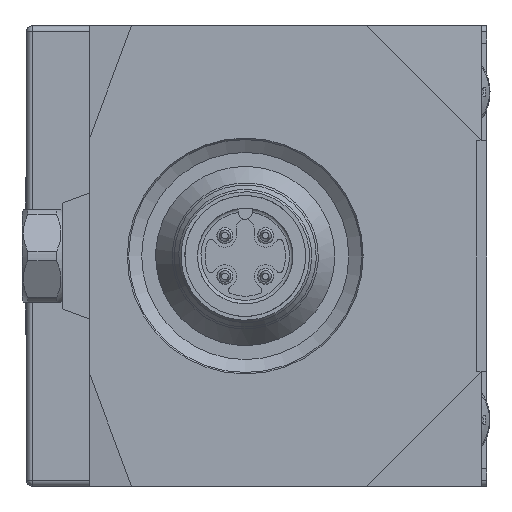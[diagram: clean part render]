
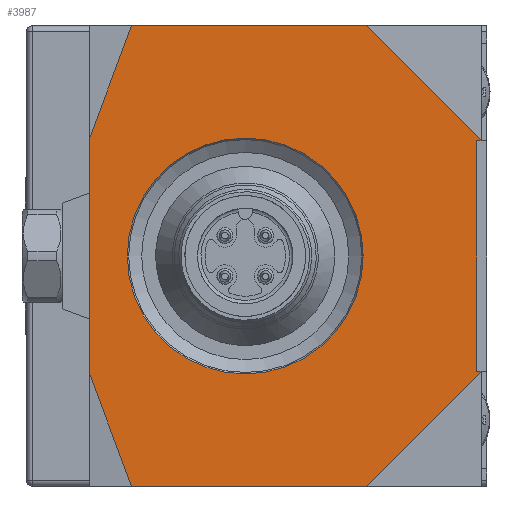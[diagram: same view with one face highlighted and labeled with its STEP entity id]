
A CAD part, left-side view. The second image highlights one B-rep face of the part: STEP entity #3987.
In plain terms, the highlighted planar face has unit normal (-1, 0, 0).
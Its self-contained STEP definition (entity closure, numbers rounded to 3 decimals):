
#21 = ORIENTED_EDGE ( 'NONE', *, *, #5214, .T. ) ;
#46 = DIRECTION ( 'NONE',  ( 0., 0., 1. ) ) ;
#157 = CARTESIAN_POINT ( 'NONE',  ( -29.109, -10.375, 13.5 ) ) ;
#191 = EDGE_CURVE ( 'NONE', #8118, #6717, #8009, .T. ) ;
#213 = DIRECTION ( 'NONE',  ( 0., -1., 0. ) ) ;
#329 = VERTEX_POINT ( 'NONE', #3212 ) ;
#429 = ORIENTED_EDGE ( 'NONE', *, *, #3828, .T. ) ;
#521 = DIRECTION ( 'NONE',  ( 0., -1., 0. ) ) ;
#530 = LINE ( 'NONE', #4149, #8645 ) ;
#579 = EDGE_CURVE ( 'NONE', #2131, #4451, #3209, .T. ) ;
#673 = DIRECTION ( 'NONE',  ( 0., 1., 0. ) ) ;
#682 = CARTESIAN_POINT ( 'NONE',  ( -29.109, -6.525, 4.25 ) ) ;
#717 = EDGE_LOOP ( 'NONE', ( #21 ) ) ;
#738 = EDGE_CURVE ( 'NONE', #4451, #9364, #1265, .T. ) ;
#905 = CIRCLE ( 'NONE', #3340, 10.25 ) ;
#1239 = VERTEX_POINT ( 'NONE', #3927 ) ;
#1265 = LINE ( 'NONE', #2523, #3419 ) ;
#1480 = FACE_BOUND ( 'NONE', #717, .T. ) ;
#1483 = EDGE_CURVE ( 'NONE', #9364, #6218, #5362, .T. ) ;
#1598 = VECTOR ( 'NONE', #7162, 1000. ) ;
#1633 = LINE ( 'NONE', #6745, #6667 ) ;
#2044 = DIRECTION ( 'NONE',  ( 0., 0.707, 0.707 ) ) ;
#2131 = VERTEX_POINT ( 'NONE', #7870 ) ;
#2152 = LINE ( 'NONE', #157, #8352 ) ;
#2464 = LINE ( 'NONE', #5366, #4245 ) ;
#2507 = CARTESIAN_POINT ( 'NONE',  ( -29.109, -10.775, 8.5 ) ) ;
#2523 = CARTESIAN_POINT ( 'NONE',  ( -29.109, 22.906, 29.684 ) ) ;
#2557 = DIRECTION ( 'NONE',  ( 0., -0.351, -0.936 ) ) ;
#2699 = EDGE_CURVE ( 'NONE', #6717, #4631, #8092, .T. ) ;
#2992 = EDGE_LOOP ( 'NONE', ( #3517, #7576, #5874, #429, #9377, #4682, #7799, #4013, #7657, #7876 ) ) ;
#3048 = DIRECTION ( 'NONE',  ( 0., 1., 0. ) ) ;
#3209 = LINE ( 'NONE', #6772, #4476 ) ;
#3212 = CARTESIAN_POINT ( 'NONE',  ( -29.109, -10.375, 28.5 ) ) ;
#3231 = DIRECTION ( 'NONE',  ( 0., 0., -1. ) ) ;
#3340 = AXIS2_PLACEMENT_3D ( 'NONE', #7333, #8939, #673 ) ;
#3419 = VECTOR ( 'NONE', #6969, 1000. ) ;
#3441 = CARTESIAN_POINT ( 'NONE',  ( -29.109, -0.775, -1.5 ) ) ;
#3477 = VERTEX_POINT ( 'NONE', #9376 ) ;
#3497 = CARTESIAN_POINT ( 'NONE',  ( -29.109, -10.375, 8.5 ) ) ;
#3517 = ORIENTED_EDGE ( 'NONE', *, *, #2699, .T. ) ;
#3828 = EDGE_CURVE ( 'NONE', #1239, #2131, #530, .T. ) ;
#3927 = CARTESIAN_POINT ( 'NONE',  ( -29.109, -10.775, 28.5 ) ) ;
#3987 = ADVANCED_FACE ( 'NONE', ( #1480, #4386 ), #4253, .F. ) ;
#4013 = ORIENTED_EDGE ( 'NONE', *, *, #6637, .T. ) ;
#4149 = CARTESIAN_POINT ( 'NONE',  ( -29.109, -6.525, 32.75 ) ) ;
#4235 = LINE ( 'NONE', #4890, #5624 ) ;
#4245 = VECTOR ( 'NONE', #2557, 1000. ) ;
#4253 = PLANE ( 'NONE',  #5746 ) ;
#4341 = EDGE_CURVE ( 'NONE', #8121, #8118, #1633, .T. ) ;
#4386 = FACE_OUTER_BOUND ( 'NONE', #2992, .T. ) ;
#4451 = VERTEX_POINT ( 'NONE', #4593 ) ;
#4476 = VECTOR ( 'NONE', #4522, 1000. ) ;
#4522 = DIRECTION ( 'NONE',  ( 0., 1., 0. ) ) ;
#4593 = CARTESIAN_POINT ( 'NONE',  ( -29.109, 19.6, 38.5 ) ) ;
#4631 = VERTEX_POINT ( 'NONE', #3497 ) ;
#4682 = ORIENTED_EDGE ( 'NONE', *, *, #738, .T. ) ;
#4723 = EDGE_CURVE ( 'NONE', #4631, #329, #2152, .T. ) ;
#4890 = CARTESIAN_POINT ( 'NONE',  ( -29.109, -2.075, 28.5 ) ) ;
#5214 = EDGE_CURVE ( 'NONE', #3477, #3477, #905, .T. ) ;
#5362 = LINE ( 'NONE', #6853, #6320 ) ;
#5366 = CARTESIAN_POINT ( 'NONE',  ( -29.109, 22.906, 7.316 ) ) ;
#5538 = CARTESIAN_POINT ( 'NONE',  ( -29.109, 23.225, 8.167 ) ) ;
#5624 = VECTOR ( 'NONE', #521, 1000. ) ;
#5746 = AXIS2_PLACEMENT_3D ( 'NONE', #7925, #9297, #9246 ) ;
#5874 = ORIENTED_EDGE ( 'NONE', *, *, #8482, .T. ) ;
#6218 = VERTEX_POINT ( 'NONE', #5538 ) ;
#6320 = VECTOR ( 'NONE', #3231, 1000. ) ;
#6627 = CARTESIAN_POINT ( 'NONE',  ( -29.109, 23.225, 28.833 ) ) ;
#6637 = EDGE_CURVE ( 'NONE', #6218, #8121, #2464, .T. ) ;
#6667 = VECTOR ( 'NONE', #213, 1000. ) ;
#6717 = VERTEX_POINT ( 'NONE', #2507 ) ;
#6745 = CARTESIAN_POINT ( 'NONE',  ( -29.109, 23.225, -1.5 ) ) ;
#6772 = CARTESIAN_POINT ( 'NONE',  ( -29.109, -10.775, 38.5 ) ) ;
#6853 = CARTESIAN_POINT ( 'NONE',  ( -29.109, 23.225, 38.5 ) ) ;
#6969 = DIRECTION ( 'NONE',  ( 0., 0.351, -0.936 ) ) ;
#7067 = CARTESIAN_POINT ( 'NONE',  ( -29.109, 19.6, -1.5 ) ) ;
#7162 = DIRECTION ( 'NONE',  ( 0., -0.707, 0.707 ) ) ;
#7333 = CARTESIAN_POINT ( 'NONE',  ( -29.109, 9.725, 18.5 ) ) ;
#7374 = CARTESIAN_POINT ( 'NONE',  ( -29.109, -2.275, 8.5 ) ) ;
#7576 = ORIENTED_EDGE ( 'NONE', *, *, #4723, .T. ) ;
#7657 = ORIENTED_EDGE ( 'NONE', *, *, #4341, .T. ) ;
#7799 = ORIENTED_EDGE ( 'NONE', *, *, #1483, .T. ) ;
#7870 = CARTESIAN_POINT ( 'NONE',  ( -29.109, -0.775, 38.5 ) ) ;
#7876 = ORIENTED_EDGE ( 'NONE', *, *, #191, .T. ) ;
#7925 = CARTESIAN_POINT ( 'NONE',  ( -29.109, 6.225, 18.5 ) ) ;
#8009 = LINE ( 'NONE', #682, #1598 ) ;
#8092 = LINE ( 'NONE', #7374, #9373 ) ;
#8118 = VERTEX_POINT ( 'NONE', #3441 ) ;
#8121 = VERTEX_POINT ( 'NONE', #7067 ) ;
#8352 = VECTOR ( 'NONE', #46, 1000. ) ;
#8482 = EDGE_CURVE ( 'NONE', #329, #1239, #4235, .T. ) ;
#8645 = VECTOR ( 'NONE', #2044, 1000. ) ;
#8939 = DIRECTION ( 'NONE',  ( 1., 0., 0. ) ) ;
#9246 = DIRECTION ( 'NONE',  ( 0., -1., 0. ) ) ;
#9297 = DIRECTION ( 'NONE',  ( 1., 0., 0. ) ) ;
#9364 = VERTEX_POINT ( 'NONE', #6627 ) ;
#9373 = VECTOR ( 'NONE', #3048, 1000. ) ;
#9376 = CARTESIAN_POINT ( 'NONE',  ( -29.109, 19.975, 18.5 ) ) ;
#9377 = ORIENTED_EDGE ( 'NONE', *, *, #579, .T. ) ;
